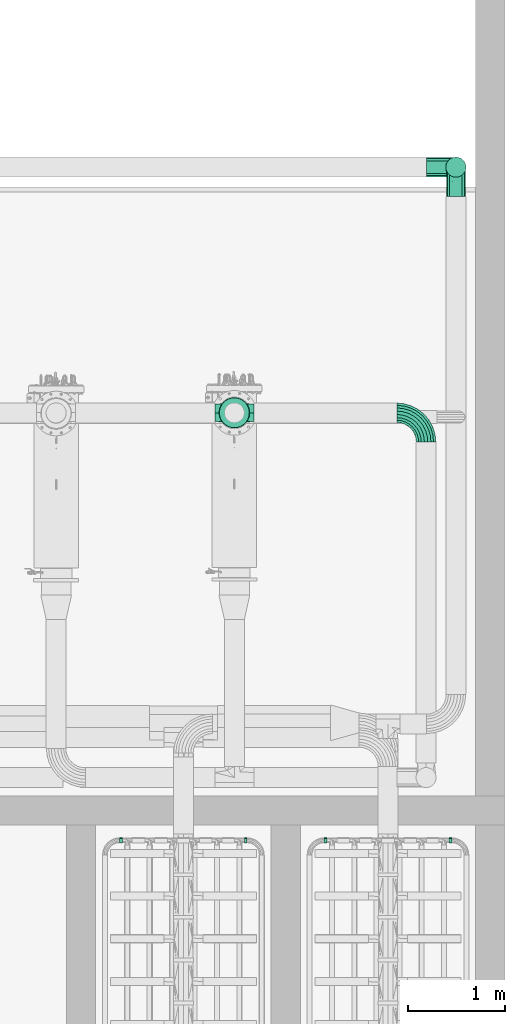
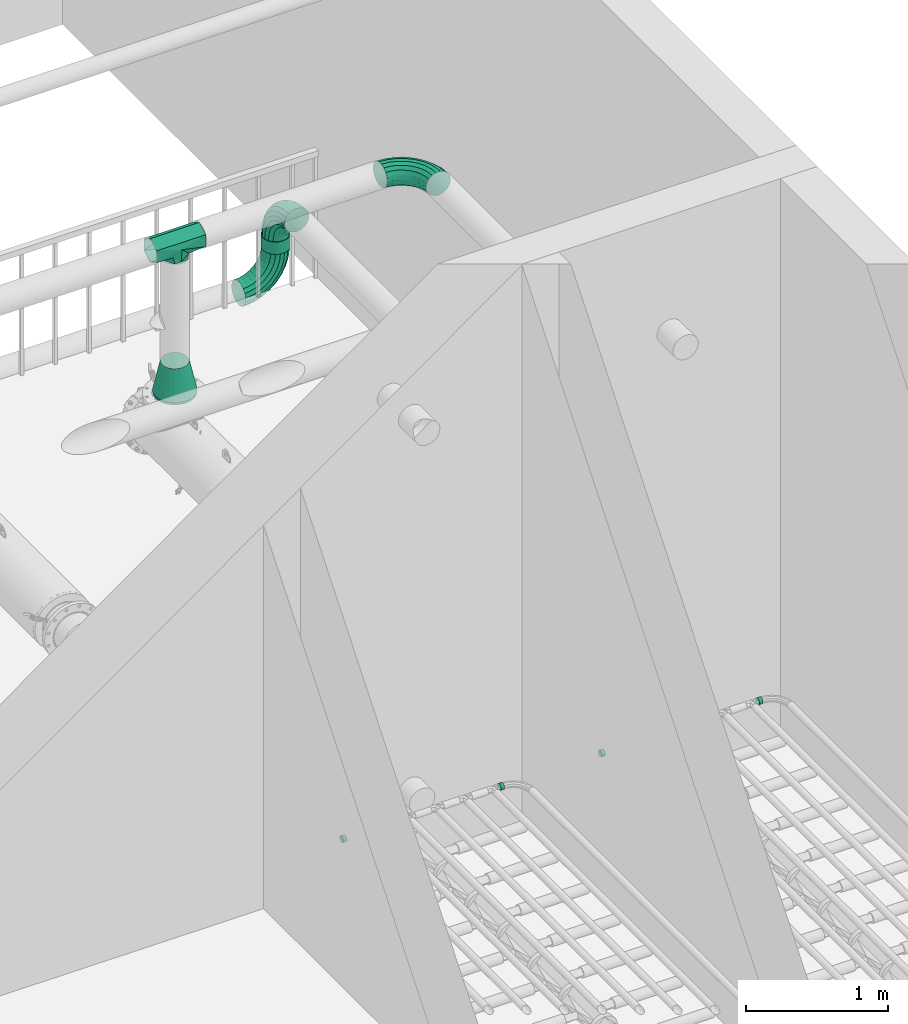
# One storey, part 25 of 28: 6 flow segments, 5 flow fittings.
"""IFC2X3 building model written with IfcOpenShell, lengths in millimetres."""

from ifc_helpers import new_model, entity, si_unit, converted_unit, direction, frame, frame_2d, origin, origin_2d_with_axis, place, context, subcontext, project, spatial, circle, extrude, faceted_brep, source, transform, mapped, material, type_object, type_shapes, element, save


model = new_model("IFC2X3")

# Units and contexts
model_context = context("Model", 3, precision=0.01, world=origin(), true_north=direction((6.123031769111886e-17, 1.0)))
body_context = subcontext(model_context, "Body", "Model", "MODEL_VIEW")
ifc_project = project(units=[si_unit("LENGTHUNIT", "METRE", prefix="MILLI"), converted_unit("PLANEANGLEUNIT", "DEGREE", entity("IfcPlaneAngleMeasure", 0.017453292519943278), si_unit("PLANEANGLEUNIT", "RADIAN"), dimensions=[0, 0, 0, 0, 0, 0, 0]), si_unit("AREAUNIT", "SQUARE_METRE")], contexts=[model_context])

# Site, building, storey
site_placement = place(None, frame((7776.576483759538, 118.3519876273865, 0.0)))
site = spatial("IfcSite", under=ifc_project, at=site_placement, Name="Default", CompositionType="ELEMENT")
building_placement = place(site_placement, origin())
building = spatial("IfcBuilding", under=site, at=building_placement, Name="Bygning (endres i Project Information)", CompositionType="ELEMENT")
storey_placement = place(building_placement, frame((0.0, 0.0, 14000.0)))
storey = spatial("IfcBuildingStorey", under=building, at=storey_placement, Name="Plan U1 - Arbeid", CompositionType="ELEMENT", Elevation=14000.000000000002)

# Flow segments
ifc_material_1 = material(Name="SS 2343 Rustfritt stål, prosessrør, generisk")
pipe_segment_type = type_object("IfcPipeSegmentType", Name="Pipe Types:AISI 304L Rustfritt", PredefinedType="NOTDEFINED", material=ifc_material_1)
flow_segment_1_placement = place(storey_placement, origin())
element("IfcFlowSegment", 1, at=flow_segment_1_placement, inside=storey, type_object=pipe_segment_type, Name="Pipe Types:AISI 304L Rustfritt", ObjectType="Pipe Types:AISI 304L Rustfritt", context=body_context, shape_type="SweptSolid", body=[
    extrude(circle(Radius=27.0, at=frame_2d((0.0, -2.1657342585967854e-12), x_axis=(1.0, 0.0))), frame((29599.001374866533, 24042.757305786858, 500.0), z_axis=(1.0, 0.0, 0.0), x_axis=(0.0, -1.0, 0.0)), (0.0, 0.0, 1.0), 30.00000000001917),
])
flow_segment_2_placement = place(storey_placement, origin())
element("IfcFlowSegment", 2, at=flow_segment_2_placement, inside=storey, type_object=pipe_segment_type, Name="Pipe Types:AISI 304L Rustfritt", ObjectType="Pipe Types:AISI 304L Rustfritt", context=body_context, shape_type="SweptSolid", body=[
    extrude(circle(Radius=27.0, at=frame_2d((0.0, -2.1657342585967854e-12), x_axis=(1.0, 0.0))), frame((28319.001374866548, 24042.757305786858, 500.0), z_axis=(1.0, 0.0, 0.0), x_axis=(0.0, -1.0, 0.0)), (0.0, 0.0, 1.0), 29.999999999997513),
])
flow_segment_3_placement = place(storey_placement, origin())
element("IfcFlowSegment", 3, at=flow_segment_3_placement, inside=storey, type_object=pipe_segment_type, Name="Pipe Types:AISI 304L Rustfritt", ObjectType="Pipe Types:AISI 304L Rustfritt", context=body_context, shape_type="SweptSolid", body=[
    extrude(circle(Radius=27.0, at=frame_2d((0.0, -2.1657342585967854e-12), x_axis=(1.0, 0.0))), frame((31699.00137486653, 24042.757305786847, 500.0), z_axis=(1.0, 0.0, 0.0), x_axis=(0.0, -1.0, 0.0)), (0.0, 0.0, 1.0), 30.00000000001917),
])
flow_segment_4_placement = place(storey_placement, origin())
element("IfcFlowSegment", 4, at=flow_segment_4_placement, inside=storey, type_object=pipe_segment_type, Name="Pipe Types:AISI 304L Rustfritt", ObjectType="Pipe Types:AISI 304L Rustfritt", context=body_context, shape_type="SweptSolid", body=[
    extrude(circle(Radius=27.0, at=frame_2d((0.0, -2.1657342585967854e-12), x_axis=(1.0, 0.0))), frame((30419.001374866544, 24042.757305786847, 500.0), z_axis=(1.0, 0.0, 0.0), x_axis=(0.0, -1.0, 0.0)), (0.0, 0.0, 1.0), 29.999999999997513),
])
flow_segment_5_placement = place(storey_placement, origin())
element("IfcFlowSegment", 5, at=flow_segment_5_placement, inside=storey, type_object=pipe_segment_type, Name="Pipe Types:AISI 304L Rustfritt", ObjectType="Pipe Types:AISI 304L Rustfritt", context=body_context, shape_type="SweptSolid", body=[
    extrude(circle(Radius=153.0, at=origin_2d_with_axis()), frame((29497.26396460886, 28429.85394005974, 1263.5000000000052)), (0.0, 0.0, 1.0), 22.5999999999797),
])
flow_segment_6_placement = place(storey_placement, origin())
element("IfcFlowSegment", 6, at=flow_segment_6_placement, inside=storey, type_object=pipe_segment_type, Name="Pipe Types:AISI 304L Rustfritt", ObjectType="Pipe Types:AISI 304L Rustfritt", context=body_context, shape_type="SweptSolid", body=[
    extrude(circle(Radius=103.0, at=frame_2d((0.0, -4.331468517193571e-12), x_axis=(1.0, 0.0))), frame((31771.001374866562, 30950.757305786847, 197.0), z_axis=(0.0, 0.0, 1.0), x_axis=(-1.0, 0.0, 0.0)), (0.0, 0.0, 1.0), 105.9999999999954),
])

# Flow fittings
ifc_material_2 = material(Name="Rustfritt")
pipe_fitting_type_1 = type_object("IfcPipeFittingType", Name="T-rør,Rustfritt EN 1,4307304L, sveiste, oppkraget, metrisk, EN 10253-4:Standard", PredefinedType="NOTDEFINED", material=ifc_material_2)
shared_shape_1 = source(origin(), body_context, "Body", "Brep", [
    faceted_brep([(-200.0, 51.49999999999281, -89.20061658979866), (-200.0, 50.0, -86.60254037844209), (-200.0, 75.0, -43.3012701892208), (-200.0, 100.0, 0.0), (-200.0, 81.21564460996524, -37.73161034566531), (-200.0, 0.0, -86.60254037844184), (-200.0, -50.0, -86.60254037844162), (-200.0, 0.0, -89.20061658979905), (-200.0, -51.50000000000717, -89.20061658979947), (-200.0, -75.0, -43.30127018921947), (-200.0, -100.0, 0.0), (-200.0, -77.25000000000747, -44.60030829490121), (-200.0, -103.0, 0.0), (-200.0, -87.50000000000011, 21.65063509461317), (-200.0, -75.0, 43.301270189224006), (-200.0, -50.0, 86.60254037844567), (-200.0, -90.1250000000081, 22.30015414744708), (-200.0, -77.25000000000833, 44.60030829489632), (-200.0, -51.50000000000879, 89.20061658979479), (-200.0, 0.0, 89.20061658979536), (-200.0, 51.499999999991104, 89.20061658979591), (-200.0, 0.0, 86.60254037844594), (-200.0, 50.0, 86.60254037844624), (-200.0, 77.24999999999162, 44.60030829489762), (-200.0, 103.0, 0.0), (-200.0, 79.16042262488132, 36.09520682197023), (200.0, 51.49999999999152, -89.20061658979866), (200.0, 100.0, 0.0), (200.0, 75.0, -43.30127018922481), (200.0, 77.2499999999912, -44.6003082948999), (200.0, 50.0, -86.60254037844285), (200.0, 0.0, -86.60254037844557), (200.0, -50.0, -86.6025403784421), (200.0, 0.0, -89.20061658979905), (200.0, 103.0, 0.0), (200.0, 75.0, 43.301270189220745), (200.0, 50.0, 86.60254037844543), (200.0, 77.24999999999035, 44.600308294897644), (200.0, 51.49999999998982, 89.20061658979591), (200.0, 0.0, 86.60254037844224), (200.0, -50.0, 86.60254037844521), (200.0, 0.0, 89.20061658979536), (200.0, -51.500000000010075, 89.20061658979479), (200.0, -77.25000000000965, 44.600308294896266), (200.0, -103.0, 0.0), (200.0, -75.0, 43.301270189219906), (200.0, -100.0, 0.0), (200.0, -90.12500000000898, -22.30015414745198), (200.0, -77.2500000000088, -44.60030829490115), (200.0, -51.500000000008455, -89.20061658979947), (200.0, -75.0, -43.30127018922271), (200.0, -87.50000000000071, -21.65063509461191), (87.99487622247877, -87.99487622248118, 36.336951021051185), (72.98975244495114, -72.98975244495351, 72.67390204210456), (0.0, 0.0, 103.0), (-59.744280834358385, -59.7442808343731, 83.90244875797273), (103.0, -103.0, 0.0), (-103.0, -103.0, 0.0), (-83.0022440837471, -83.00224408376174, 38.78933753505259), (-81.372140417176, -81.37214041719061, 41.951224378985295), (-98.9088238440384, -98.90882384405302, 7.935591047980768), (-92.18607020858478, -92.18607020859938, 20.975612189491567), (0.0, 0.0, -103.0), (83.00224409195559, -83.00224409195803, -38.78933751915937), (81.37214041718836, -81.37214041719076, -41.95122437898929), (59.74428083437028, -59.7442808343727, -83.90244875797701), (-87.99487622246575, -87.9948762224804, -36.33695102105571), (98.90882384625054, -98.90882384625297, -7.935591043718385), (92.18607020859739, -92.18607020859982, -20.975612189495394), (-72.98975244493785, -72.98975244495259, -72.67390204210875), (51.50000000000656, -114.28571428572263, -89.20061658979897), (100.0, -114.28571428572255, 0.0), (81.76537069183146, -114.28571428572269, -31.583304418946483), (83.93868883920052, -114.2857142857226, -33.01515938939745), (50.0, -114.28571428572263, -86.60254037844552), (0.0, -114.28571428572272, -86.60254037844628), (-50.0, -114.2857142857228, -86.60254037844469), (0.0, -114.28571428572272, -89.20061658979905), (93.46934441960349, -114.28571428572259, -16.50757969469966), (103.0, -114.28571428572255, 0.0), (75.0, -114.28571428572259, 43.30127018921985), (50.0, -114.28571428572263, 86.6025403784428), (77.25000000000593, -114.28571428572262, 44.60030829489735), (51.500000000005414, -114.28571428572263, 89.20061658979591), (0.0, -114.28571428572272, 86.60254037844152), (-50.0, -114.2857142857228, 86.6025403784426), (0.0, -114.28571428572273, 89.20061658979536), (-51.49999999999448, -114.2857142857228, 89.20061658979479), (-83.93868900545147, -114.28571428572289, 33.01515910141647), (-93.4693445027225, -114.28571428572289, 16.50757955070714), (-103.0, -114.28571428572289, 0.0), (-81.7653681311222, -114.28571428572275, 31.583308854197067), (-100.0, -114.28571428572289, 0.0), (-77.24999999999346, -114.28571428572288, -44.60030829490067), (-51.499999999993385, -114.2857142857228, -89.20061658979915), (-75.0, -114.28571428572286, -43.30127018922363), (-85.42830493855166, -85.42830493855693, -35.282222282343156), (-70.85660987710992, -70.85660987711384, -70.56444456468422), (78.99890634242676, -78.99890634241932, -40.731602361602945), (-100.0, -100.0, 0.0), (57.99781268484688, -57.9978126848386, -81.46320472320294), (89.49945317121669, -89.49945317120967, -20.36580118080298), (0.0, 0.0, -100.0), (80.8612318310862, -80.86123183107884, -37.11962374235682), (100.0, -100.0, 0.0), (85.42830493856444, -85.42830493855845, 35.28222228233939), (70.85660987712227, -70.85660987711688, 70.56444456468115), (-78.99890634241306, -78.99890634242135, 40.731602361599), (-57.99781268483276, -57.99781268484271, 81.46320472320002), (-89.49945317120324, -89.49945317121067, 20.36580118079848), (0.0, 0.0, 100.0), (-80.86123190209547, -80.86123190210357, 37.119623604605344)], [[[0, 1, 2]], [[0, 2, 3]], [[3, 4, 0]], [[0, 5, 1]], [[0, 6, 5]], [[6, 0, 7]], [[6, 7, 8]], [[8, 9, 6]], [[8, 10, 9]], [[10, 8, 11]], [[10, 11, 12]], [[12, 13, 10]], [[12, 14, 13]], [[12, 15, 14]], [[15, 12, 16]], [[15, 16, 17]], [[15, 17, 18]], [[15, 18, 19]], [[15, 19, 20]], [[20, 21, 15]], [[20, 22, 21]], [[22, 20, 23]], [[22, 23, 24]], [[3, 24, 4]], [[24, 3, 25]], [[24, 25, 22]], [[26, 27, 28]], [[27, 26, 29]], [[26, 28, 30]], [[26, 30, 31]], [[26, 31, 32]], [[32, 33, 26]], [[27, 29, 34]], [[34, 35, 27]], [[34, 36, 35]], [[36, 34, 37]], [[36, 37, 38]], [[38, 39, 36]], [[38, 40, 39]], [[40, 38, 41]], [[40, 41, 42]], [[40, 42, 43]], [[40, 43, 44]], [[44, 45, 40]], [[44, 46, 45]], [[46, 44, 47]], [[46, 47, 48]], [[46, 48, 49]], [[49, 32, 50]], [[32, 49, 33]], [[49, 50, 51]], [[49, 51, 46]], [[43, 52, 44]], [[53, 43, 42]], [[54, 42, 41, 38]], [[17, 55, 18]], [[44, 52, 56]], [[12, 57, 16]], [[43, 53, 52]], [[42, 54, 53]], [[24, 23, 20, 38, 37, 34]], [[18, 54, 20, 19]], [[18, 55, 54]], [[58, 17, 16]], [[20, 54, 38]], [[17, 58, 59, 55]], [[16, 57, 60, 61, 58]], [[0, 4, 24, 34, 29, 26]], [[62, 26, 33, 49]], [[0, 26, 62]], [[0, 62, 8, 7]], [[63, 48, 47]], [[48, 63, 64, 65]], [[12, 66, 57]], [[56, 47, 44]], [[47, 56, 67, 68, 63]], [[65, 49, 48]], [[69, 8, 62]], [[11, 66, 12]], [[11, 69, 66]], [[69, 11, 8]], [[49, 65, 62]], [[70, 71, 72]], [[71, 70, 73]], [[70, 72, 74]], [[70, 74, 75]], [[70, 75, 76]], [[76, 77, 70]], [[71, 73, 78]], [[71, 78, 79]], [[79, 80, 71]], [[79, 81, 80]], [[81, 79, 82]], [[81, 82, 83]], [[83, 84, 81]], [[83, 85, 84]], [[85, 83, 86]], [[85, 86, 87]], [[85, 87, 88]], [[85, 88, 89]], [[85, 89, 90]], [[90, 91, 85]], [[90, 92, 91]], [[92, 90, 93]], [[92, 93, 94]], [[94, 76, 95]], [[76, 94, 77]], [[94, 95, 92]], [[59, 87, 55]], [[55, 86, 54]], [[53, 83, 82]], [[60, 57, 90]], [[55, 87, 86]], [[61, 60, 89]], [[56, 52, 79]], [[60, 90, 89]], [[79, 52, 82]], [[53, 82, 52]], [[88, 59, 58, 61]], [[61, 89, 88]], [[83, 53, 86]], [[86, 53, 54]], [[87, 59, 88]], [[64, 70, 65]], [[70, 64, 73]], [[90, 66, 93]], [[67, 56, 79]], [[65, 70, 77]], [[73, 64, 63, 68]], [[57, 66, 90]], [[69, 94, 93]], [[68, 67, 78]], [[69, 93, 66]], [[67, 79, 78]], [[77, 69, 62]], [[94, 69, 77]], [[65, 77, 62]], [[68, 78, 73]], [[96, 95, 97]], [[95, 96, 92]], [[72, 98, 74]], [[92, 96, 99]], [[75, 74, 100]], [[95, 76, 97]], [[101, 72, 71]], [[100, 74, 98]], [[102, 97, 75]], [[72, 101, 103, 98]], [[102, 75, 100]], [[97, 76, 75]], [[104, 101, 71]], [[105, 80, 106]], [[91, 107, 85]], [[80, 105, 71]], [[71, 105, 104]], [[84, 85, 108]], [[109, 91, 92]], [[107, 108, 85]], [[109, 92, 99]], [[110, 106, 84]], [[80, 81, 106]], [[110, 84, 108]], [[106, 81, 84]], [[91, 109, 111, 107]], [[10, 96, 9]], [[6, 9, 97]], [[31, 30, 102, 32]], [[32, 100, 50]], [[99, 96, 10]], [[51, 104, 46]], [[51, 103, 101, 104]], [[97, 102, 6]], [[96, 97, 9]], [[1, 5, 6, 102]], [[2, 1, 30, 28, 27, 3]], [[102, 100, 32]], [[1, 102, 30]], [[51, 50, 103]], [[50, 100, 98, 103]], [[25, 3, 27, 35, 36, 22]], [[110, 15, 21, 22]], [[110, 22, 36]], [[110, 36, 39, 40]], [[105, 106, 45]], [[108, 15, 110]], [[14, 15, 108]], [[13, 99, 10]], [[13, 111, 109, 99]], [[104, 105, 46]], [[45, 106, 40]], [[106, 110, 40]], [[46, 105, 45]], [[13, 14, 111]], [[14, 108, 107, 111]]]),
])
type_shapes(pipe_fitting_type_1, [shared_shape_1])
flow_fitting_1_placement = place(storey_placement, frame((29497.26396460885, 28429.853940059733, 2552.2960799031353), z_axis=(0.0, -1.0, 0.0), x_axis=(1.0, 0.0, 0.0)))
element("IfcFlowFitting", 7, at=flow_fitting_1_placement, inside=storey, type_object=pipe_fitting_type_1, material=ifc_material_2, Name="T-rør,Rustfritt EN 1,4307304L, sveiste, oppkraget, metrisk, EN 10253-4:Standard", ObjectType="T-rør,Rustfritt EN 1,4307304L, sveiste, oppkraget, metrisk, EN 10253-4:Standard", context=body_context, shape_type="MappedRepresentation", body=[
    mapped(shared_shape_1, transform((0.0, 0.0, 0.0), scale=1.0)),
])
pipe_fitting_type_2 = type_object("IfcPipeFittingType", Name="VA_prosess_rustfritt_bend_D+100:VA_prosess_rustfritt_bend_D+100", PredefinedType="NOTDEFINED", material=ifc_material_1)
shared_shape_2 = source(origin(), body_context, "Body", "Brep", [
    faceted_brep([(-221.96387119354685, -92.314112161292, 0.0), (-223.1404097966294, -86.39925317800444, 34.202014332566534), (-300.0, -93.96926207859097, 34.202014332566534), (-300.0, -100.0, 0.0), (-226.52811768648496, -69.36809551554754, 64.27876096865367), (-300.0, -76.60444431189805, 64.27876096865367), (-231.71838729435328, -43.274848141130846, 86.60254037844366), (-300.0, -50.0, 86.60254037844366), (-238.08519550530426, -11.266741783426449, 98.48077530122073), (-300.0, -17.36481776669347, 98.48077530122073), (-244.86061128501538, 22.79557354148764, 98.48077530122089), (-300.0, 17.36481776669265, 98.48077530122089), (-251.22741949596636, 54.80367989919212, 86.60254037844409), (-300.0, 50.0, 86.60254037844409), (-256.41768910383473, 80.89692727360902, 64.27876096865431), (-300.0, 76.60444431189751, 64.27876096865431), (-259.8053969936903, 97.92808493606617, 34.202014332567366), (-300.0, 93.96926207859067, 34.202014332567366), (-260.9819355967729, 103.84294391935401, 0.0), (-300.0, 100.0, 0.0), (-259.8053969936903, 97.92808493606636, -34.20201433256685), (-300.0, 93.96926207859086, -34.20201433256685), (-256.4176891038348, 80.89692727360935, -64.2787609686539), (-300.0, 76.60444431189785, -64.2787609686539), (-251.22741949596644, 54.80367989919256, -86.60254037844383), (-300.0, 50.0, -86.60254037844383), (-244.86061128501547, 22.795573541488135, -98.48077530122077), (-300.0, 17.364817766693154, -98.48077530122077), (-238.08519550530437, -11.26674178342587, -98.48077530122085), (-300.0, -17.36481776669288, -98.48077530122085), (-231.71838729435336, -43.27484814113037, -86.60254037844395), (-300.0, -50.0, -86.60254037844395), (-226.52811768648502, -69.3680955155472, -64.27876096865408), (-300.0, -76.6044443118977, -64.27876096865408), (-223.14040979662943, -86.39925317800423, -34.2020143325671), (-300.0, -93.96926207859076, -34.2020143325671), (-146.9266270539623, -69.55181300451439, 0.0), (-149.2344905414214, -63.98013767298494, 34.202014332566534), (-155.87971860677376, -47.937137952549, 64.27876096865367), (-166.06079867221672, -23.357836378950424, 86.60254037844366), (-178.54974222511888, 6.79314052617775, 98.48077530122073), (-191.8401983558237, 38.87913996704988, 98.48077530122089), (-204.32914190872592, 69.03011687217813, 86.60254037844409), (-214.51022197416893, 93.6094184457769, 64.27876096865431), (-221.15545003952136, 109.65241816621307, 34.202014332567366), (-223.46331352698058, 115.2240934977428, 0.0), (-221.15545003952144, 109.65241816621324, -34.20201433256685), (-214.51022197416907, 93.60941844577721, -64.2787609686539), (-204.3291419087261, 69.03011687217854, -86.60254037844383), (-191.8401983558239, 38.87913996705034, -98.48077530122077), (-178.5497422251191, 6.7931405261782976, -98.48077530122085), (-166.0607986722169, -23.357836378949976, -86.60254037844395), (-155.8797186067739, -47.937137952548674, -64.27876096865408), (-149.23449054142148, -63.98013767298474, -34.2020143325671), (-77.77190679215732, -32.58784492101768, 0.0), (-81.12240526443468, -27.573469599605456, 34.202014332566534), (-90.76978111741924, -13.135151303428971, 64.27876096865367), (-105.5504184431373, 8.985635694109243, 86.60254037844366), (-123.68155424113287, 36.120798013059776, 98.48077530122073), (-142.97630594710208, 64.997434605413, 98.48077530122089), (-161.1074417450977, 92.13259692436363, 86.60254037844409), (-175.88807907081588, 114.253383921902, 64.27876096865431), (-185.53545492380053, 128.69170221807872, 34.202014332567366), (-188.88595339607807, 133.70607753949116, 0.0), (-185.53545492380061, 128.69170221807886, -34.20201433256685), (-175.88807907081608, 114.25338392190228, -64.2787609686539), (-161.10744174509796, 92.132596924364, -86.60254037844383), (-142.97630594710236, 64.99743460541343, -98.48077530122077), (-123.68155424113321, 36.120798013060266, -98.48077530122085), (-105.55041844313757, 8.985635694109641, -86.60254037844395), (-90.76978111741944, -13.135151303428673, -64.27876096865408), (-81.12240526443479, -27.573469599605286, -34.2020143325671), (-17.15728752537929, 17.157287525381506, 0.0), (-21.421663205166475, 21.42166320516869, 34.202014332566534), (-33.70044360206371, 33.700443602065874, 64.27876096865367), (-52.51262658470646, 52.512626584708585, 86.60254037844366), (-75.58918524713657, 75.58918524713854, 98.48077530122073), (-100.14674604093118, 100.14674604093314, 98.48077530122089), (-123.22330470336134, 123.22330470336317, 86.60254037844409), (-142.03548768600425, 142.035487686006, 64.27876096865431), (-154.3142680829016, 154.3142680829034, 34.202014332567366), (-158.578643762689, 158.57864376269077, 0.0), (-154.31426808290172, 154.31426808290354, -34.20201433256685), (-142.03548768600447, 142.03548768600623, -64.2787609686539), (-123.22330470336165, 123.2233047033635, -86.60254037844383), (-100.14674604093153, 100.1467460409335, -98.48077530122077), (-75.58918524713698, 75.58918524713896, -98.48077530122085), (-52.51262658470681, 52.512626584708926, -86.60254037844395), (-33.700443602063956, 33.70044360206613, -64.27876096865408), (-21.42166320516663, 21.421663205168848, -34.2020143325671), (32.58784492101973, 77.77190679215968, 0.0), (27.573469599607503, 81.12240526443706, 34.202014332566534), (13.135151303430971, 90.76978111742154, 64.27876096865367), (-8.985635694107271, 105.55041844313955, 86.60254037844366), (-36.1207980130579, 123.68155424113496, 98.48077530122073), (-64.99743460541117, 142.97630594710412, 98.48077530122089), (-92.13259692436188, 161.10744174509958, 86.60254037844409), (-114.25338392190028, 175.88807907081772, 64.27876096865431), (-128.69170221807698, 185.53545492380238, 34.202014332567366), (-133.70607753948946, 188.8859533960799, 0.0), (-128.69170221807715, 185.5354549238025, -34.20201433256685), (-114.25338392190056, 175.8880790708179, -64.2787609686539), (-92.13259692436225, 161.10744174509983, -86.60254037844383), (-64.99743460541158, 142.9763059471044, -98.48077530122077), (-36.12079801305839, 123.68155424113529, -98.48077530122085), (-8.985635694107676, 105.55041844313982, -86.60254037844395), (13.13515130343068, 90.76978111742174, -64.27876096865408), (27.573469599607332, 81.12240526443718, -34.2020143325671), (69.55181300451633, 146.92662705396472, 0.0), (63.98013767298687, 149.23449054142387, 34.202014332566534), (47.937137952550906, 155.87971860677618, 64.27876096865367), (23.357836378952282, 166.06079867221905, 86.60254037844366), (-6.793140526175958, 178.54974222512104, 98.48077530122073), (-38.879139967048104, 191.8401983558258, 98.48077530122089), (-69.03011687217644, 204.32914190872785, 86.60254037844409), (-93.60941844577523, 214.5102219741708, 64.27876096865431), (-109.65241816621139, 221.15545003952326, 34.202014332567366), (-115.22409349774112, 223.46331352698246, 0.0), (-109.65241816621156, 221.15545003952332, -34.20201433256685), (-93.60941844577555, 214.51022197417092, -64.2787609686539), (-69.03011687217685, 204.32914190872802, -86.60254037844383), (-38.87913996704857, 191.840198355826, -98.48077530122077), (-6.793140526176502, 178.54974222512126, -98.48077530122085), (23.357836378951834, 166.06079867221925, -86.60254037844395), (47.93713795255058, 155.87971860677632, -64.27876096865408), (63.98013767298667, 149.23449054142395, -34.2020143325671), (92.31411216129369, 221.96387119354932, 0.0), (86.39925317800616, 223.1404097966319, 34.202014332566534), (69.36809551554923, 226.52811768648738, 64.27876096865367), (43.27484814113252, 231.71838729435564, 86.60254037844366), (11.266741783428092, 238.08519550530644, 98.48077530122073), (-22.795573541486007, 244.86061128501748, 98.48077530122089), (-54.80367989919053, 251.22741949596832, 86.60254037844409), (-80.89692727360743, 256.4176891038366, 64.27876096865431), (-97.9280849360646, 259.80539699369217, 34.202014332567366), (-103.84294391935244, 260.9819355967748, 0.0), (-97.92808493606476, 259.8053969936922, -34.20201433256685), (-80.89692727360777, 256.41768910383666, -64.2787609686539), (-54.80367989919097, 251.2274194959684, -86.60254037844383), (-22.795573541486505, 244.8606112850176, -98.48077530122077), (11.266741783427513, 238.08519550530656, -98.48077530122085), (43.27484814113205, 231.71838729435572, -86.60254037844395), (69.36809551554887, 226.52811768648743, -64.27876096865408), (86.39925317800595, 223.14040979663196, -34.2020143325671), (100.0, 300.0, 0.0), (93.96926207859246, 300.0, 34.202014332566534), (76.60444431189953, 300.0, 64.27876096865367), (50.0, 300.0, 86.60254037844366), (17.36481776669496, 300.0, 98.48077530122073), (-17.36481776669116, 300.0, 98.48077530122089), (-50.0, 300.0, 86.60254037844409), (-76.60444431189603, 300.0, 64.27876096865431), (-93.9692620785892, 300.0, 34.202014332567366), (-100.0, 300.0, 0.0), (-93.96926207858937, 300.0, -34.20201433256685), (-76.60444431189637, 300.0, -64.2787609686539), (-50.0, 300.0, -86.60254037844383), (-17.364817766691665, 300.0, -98.48077530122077), (17.36481776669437, 300.0, -98.48077530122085), (50.0, 300.0, -86.60254037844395), (76.60444431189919, 300.0, -64.27876096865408), (93.96926207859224, 300.0, -34.2020143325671)], [[[0, 1, 2, 3]], [[1, 4, 5, 2]], [[4, 6, 7, 5]], [[6, 8, 9, 7]], [[8, 10, 11, 9]], [[10, 12, 13, 11]], [[12, 14, 15, 13]], [[14, 16, 17, 15]], [[16, 18, 19, 17]], [[18, 20, 21, 19]], [[20, 22, 23, 21]], [[22, 24, 25, 23]], [[24, 26, 27, 25]], [[26, 28, 29, 27]], [[28, 30, 31, 29]], [[30, 32, 33, 31]], [[32, 34, 35, 33]], [[34, 0, 3, 35]], [[36, 37, 1, 0]], [[37, 38, 4, 1]], [[38, 39, 6, 4]], [[39, 40, 8, 6]], [[40, 41, 10, 8]], [[41, 42, 12, 10]], [[42, 43, 14, 12]], [[43, 44, 16, 14]], [[44, 45, 18, 16]], [[45, 46, 20, 18]], [[46, 47, 22, 20]], [[47, 48, 24, 22]], [[48, 49, 26, 24]], [[49, 50, 28, 26]], [[50, 51, 30, 28]], [[51, 52, 32, 30]], [[52, 53, 34, 32]], [[53, 36, 0, 34]], [[54, 55, 37, 36]], [[55, 56, 38, 37]], [[56, 57, 39, 38]], [[57, 58, 40, 39]], [[58, 59, 41, 40]], [[59, 60, 42, 41]], [[60, 61, 43, 42]], [[61, 62, 44, 43]], [[62, 63, 45, 44]], [[63, 64, 46, 45]], [[64, 65, 47, 46]], [[65, 66, 48, 47]], [[66, 67, 49, 48]], [[67, 68, 50, 49]], [[68, 69, 51, 50]], [[69, 70, 52, 51]], [[70, 71, 53, 52]], [[71, 54, 36, 53]], [[72, 73, 55, 54]], [[73, 74, 56, 55]], [[74, 75, 57, 56]], [[75, 76, 58, 57]], [[76, 77, 59, 58]], [[77, 78, 60, 59]], [[78, 79, 61, 60]], [[79, 80, 62, 61]], [[80, 81, 63, 62]], [[81, 82, 64, 63]], [[82, 83, 65, 64]], [[83, 84, 66, 65]], [[84, 85, 67, 66]], [[85, 86, 68, 67]], [[86, 87, 69, 68]], [[87, 88, 70, 69]], [[88, 89, 71, 70]], [[89, 72, 54, 71]], [[90, 91, 73, 72]], [[91, 92, 74, 73]], [[92, 93, 75, 74]], [[93, 94, 76, 75]], [[94, 95, 77, 76]], [[95, 96, 78, 77]], [[96, 97, 79, 78]], [[97, 98, 80, 79]], [[98, 99, 81, 80]], [[99, 100, 82, 81]], [[100, 101, 83, 82]], [[101, 102, 84, 83]], [[102, 103, 85, 84]], [[103, 104, 86, 85]], [[104, 105, 87, 86]], [[105, 106, 88, 87]], [[106, 107, 89, 88]], [[107, 90, 72, 89]], [[108, 109, 91, 90]], [[109, 110, 92, 91]], [[110, 111, 93, 92]], [[111, 112, 94, 93]], [[112, 113, 95, 94]], [[113, 114, 96, 95]], [[114, 115, 97, 96]], [[115, 116, 98, 97]], [[116, 117, 99, 98]], [[117, 118, 100, 99]], [[118, 119, 101, 100]], [[119, 120, 102, 101]], [[120, 121, 103, 102]], [[121, 122, 104, 103]], [[122, 123, 105, 104]], [[123, 124, 106, 105]], [[124, 125, 107, 106]], [[125, 108, 90, 107]], [[126, 127, 109, 108]], [[127, 128, 110, 109]], [[128, 129, 111, 110]], [[129, 130, 112, 111]], [[130, 131, 113, 112]], [[131, 132, 114, 113]], [[132, 133, 115, 114]], [[133, 134, 116, 115]], [[134, 135, 117, 116]], [[135, 136, 118, 117]], [[136, 137, 119, 118]], [[137, 138, 120, 119]], [[138, 139, 121, 120]], [[139, 140, 122, 121]], [[140, 141, 123, 122]], [[141, 142, 124, 123]], [[142, 143, 125, 124]], [[143, 126, 108, 125]], [[144, 145, 127, 126]], [[145, 146, 128, 127]], [[146, 147, 129, 128]], [[147, 148, 130, 129]], [[148, 149, 131, 130]], [[149, 150, 132, 131]], [[150, 151, 133, 132]], [[151, 152, 134, 133]], [[152, 153, 135, 134]], [[153, 154, 136, 135]], [[154, 155, 137, 136]], [[155, 156, 138, 137]], [[156, 157, 139, 138]], [[157, 158, 140, 139]], [[158, 159, 141, 140]], [[159, 160, 142, 141]], [[160, 161, 143, 142]], [[161, 144, 126, 143]], [[3, 2, 5, 7, 9, 11, 13, 15, 17, 19, 21, 23, 25, 27, 29, 31, 33, 35]], [[161, 160, 159, 158, 157, 156, 155, 154, 153, 152, 151, 150, 149, 148, 147, 146, 145, 144]]]),
])
type_shapes(pipe_fitting_type_2, [shared_shape_2])
for number, where, z_axis, x_axis in (
    (8, (31465.001374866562, 28429.853940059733, 2552.2960799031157), (0.0, 0.0, 1.0), (0.0, 1.0, 0.0)),
    (9, (31771.001374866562, 30950.75730578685, -103.0), (0.0, -1.0, 0.0), (1.0, 0.0, 0.0)),
    (10, (31771.00137486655, 30950.75730578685, 603.0), (1.0, 0.0, 0.0), (0.0, 0.0, 1.0)),
):
    element("IfcFlowFitting", number, at=place(storey_placement, frame(where, z_axis=z_axis, x_axis=x_axis)), inside=storey, type_object=pipe_fitting_type_2, material=ifc_material_1, Name="VA_prosess_rustfritt_bend_D+100:VA_prosess_rustfritt_bend_D+100", ObjectType="VA_prosess_rustfritt_bend_D+100:VA_prosess_rustfritt_bend_D+100", context=body_context, shape_type="MappedRepresentation", body=[
        mapped(shared_shape_2, transform((0.0, 0.0, 0.0), scale=1.0)),
    ])
pipe_fitting_type_3 = type_object("IfcPipeFittingType", Name="Overganger, konsentriske, rustfritt EN 1,4307304L:Standard", PredefinedType="NOTDEFINED", material=ifc_material_1)
shared_shape_3 = source(origin(), body_context, "Body", "Brep", [
    faceted_brep([(252.2000000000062, -40.97105483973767, 152.9060583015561), (252.20000000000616, -79.15000000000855, 137.09182141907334), (252.20000000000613, -111.93500346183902, 111.93500346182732), (252.20000000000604, -137.09182141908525, 79.149999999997), (252.20000000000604, -152.9060583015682, 40.971054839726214), (252.200000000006, -158.30000000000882, 0.0), (252.20000000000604, -152.90605830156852, -40.971054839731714), (252.20000000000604, -137.09182141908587, -79.1500000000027), (252.20000000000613, -111.93500346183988, -111.93500346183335), (252.20000000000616, -79.15000000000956, -137.09182141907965), (252.2000000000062, -40.97105483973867, -152.9060583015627), (252.2000000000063, 0.0, -158.30000000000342), (252.20000000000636, 40.971054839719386, -152.9060583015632), (252.2000000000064, 79.14999999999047, -137.09182141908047), (252.20000000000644, 111.93500346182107, -111.93500346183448), (252.20000000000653, 137.09182141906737, -79.15000000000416), (252.20000000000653, 152.90605830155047, -40.971054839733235), (252.20000000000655, 158.2999999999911, 0.0), (252.20000000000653, 152.90605830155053, 40.97105483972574), (252.20000000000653, 137.0918214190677, 79.14999999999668), (252.20000000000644, 111.93500346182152, 111.93500346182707), (252.2000000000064, 79.14999999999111, 137.09182141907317), (252.20000000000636, 40.97105483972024, 152.90605830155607), (252.2000000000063, 0.0, 158.29999999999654), (0.0, 17.71211412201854, 100.45039080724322), (0.0, 51.0, 88.33459118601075), (0.0, 78.13653319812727, 65.56433618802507), (0.0, 95.84864732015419, 34.8860546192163), (0.0, 102.0, 0.0), (0.0, 95.84864732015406, -34.88605461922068), (0.0, 78.13653319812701, -65.5643361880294), (0.0, 51.0, -88.33459118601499), (0.0, 17.71211412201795, -100.4503908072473), (0.0, -17.71211412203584, -100.4503908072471), (0.0, -51.0, -88.33459118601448), (0.0, -78.13653319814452, -65.5643361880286), (0.0, -95.84864732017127, -34.88605461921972), (0.0, -102.0, 0.0), (0.0, -95.84864732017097, 34.8860546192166), (0.0, -78.136533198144, 65.56433618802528), (0.0, -51.0, 88.3345911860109), (0.0, -17.71211412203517, 100.45039080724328)], [[[0, 1, 2, 3, 4, 5, 6, 7, 8, 9, 10, 11, 12, 13, 14, 15, 16, 17, 18, 19, 20, 21, 22, 23]], [[24, 25, 26, 27, 28, 29, 30, 31, 32, 33, 34, 35, 36, 37, 38, 39, 40, 41]], [[6, 37, 36]], [[8, 35, 34]], [[7, 36, 35]], [[10, 34, 33]], [[6, 5, 37]], [[7, 6, 36]], [[34, 9, 8]], [[8, 7, 35]], [[10, 9, 34]], [[33, 11, 10]], [[12, 11, 32]], [[32, 11, 33]], [[31, 12, 32]], [[15, 30, 29]], [[14, 31, 30]], [[16, 29, 28]], [[31, 13, 12]], [[31, 14, 13]], [[15, 14, 30]], [[29, 16, 15]], [[28, 17, 16]], [[18, 28, 27]], [[20, 26, 25]], [[19, 27, 26]], [[22, 25, 24]], [[18, 17, 28]], [[19, 18, 27]], [[25, 21, 20]], [[20, 19, 26]], [[22, 21, 25]], [[24, 23, 22]], [[0, 23, 41]], [[41, 23, 24]], [[40, 0, 41]], [[3, 39, 38]], [[2, 40, 39]], [[4, 38, 37]], [[40, 1, 0]], [[40, 2, 1]], [[3, 2, 39]], [[38, 4, 3]], [[37, 5, 4]]]),
])
type_shapes(pipe_fitting_type_3, [shared_shape_3])
flow_fitting_2_placement = place(storey_placement, frame((29497.263964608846, 28429.853940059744, 1538.2999999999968), z_axis=(0.0, 1.0, 0.0), x_axis=(0.0, 0.0, -1.0)))
element("IfcFlowFitting", 11, at=flow_fitting_2_placement, inside=storey, type_object=pipe_fitting_type_3, material=ifc_material_1, Name="Overganger, konsentriske, rustfritt EN 1,4307304L:Standard", ObjectType="Overganger, konsentriske, rustfritt EN 1,4307304L:Standard", context=body_context, shape_type="MappedRepresentation", body=[
    mapped(shared_shape_3, transform((0.0, 0.0, 0.0), scale=1.0)),
])

save(model, "model.ifc")
